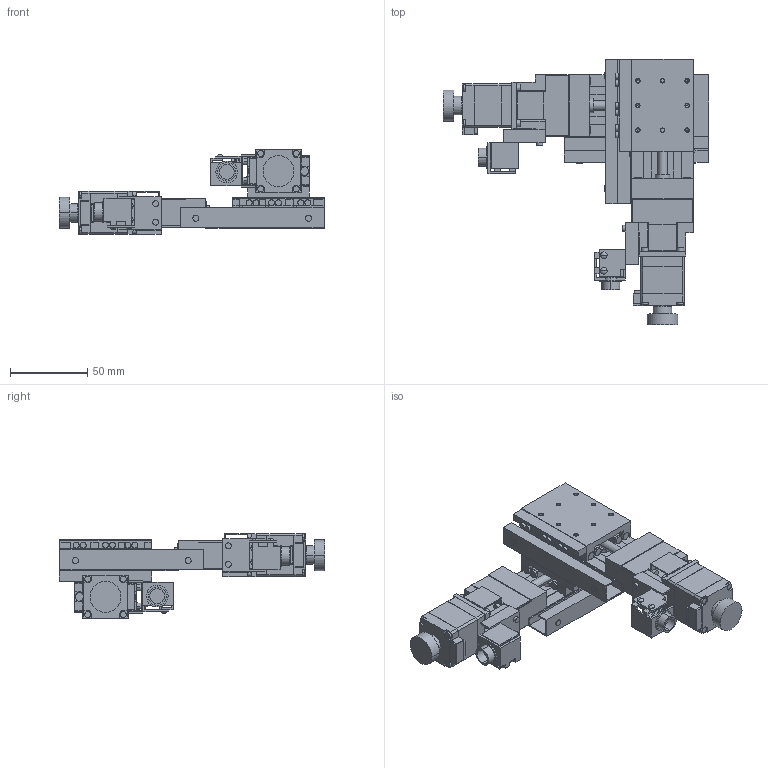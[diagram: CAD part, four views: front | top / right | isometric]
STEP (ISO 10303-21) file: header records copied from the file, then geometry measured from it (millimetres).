
FILE_DESCRIPTION(('STEP AP203'),'1');
FILE_NAME('C:/3D-Trans/3D_PMG430M-L□-C4+240122.step','2024-02-27T00:38:44',(' '),(' '),'Spatial InterOp 3D',' ',' ');
FILE_SCHEMA(('CONFIG_CONTROL_DESIGN'));
Length unit declared in the file: millimetre
Products named in the file (13): 1; 2; 3; 4; 5; 6; 7; 8; 9; 10; 11; 12; 13
Bounding box: 172 x 172 x 55 mm (x, y, z)
Volume: 222589.3 mm3; surface area: 117766.6 mm2
Topology: 13 solids, 13 shells, 1492 faces, 3810 edges, 2424 vertices
Faces by surface type: plane 920, cylinder 460, cone 104, sphere 8
Entity records: 45644 total; most frequent: CARTESIAN_POINT 8067, DIRECTION 7902, ORIENTED_EDGE 7524, EDGE_CURVE 3762, AXIS2_PLACEMENT_3D 2651, LINE 2600, VECTOR 2600, VERTEX_POINT 2424
